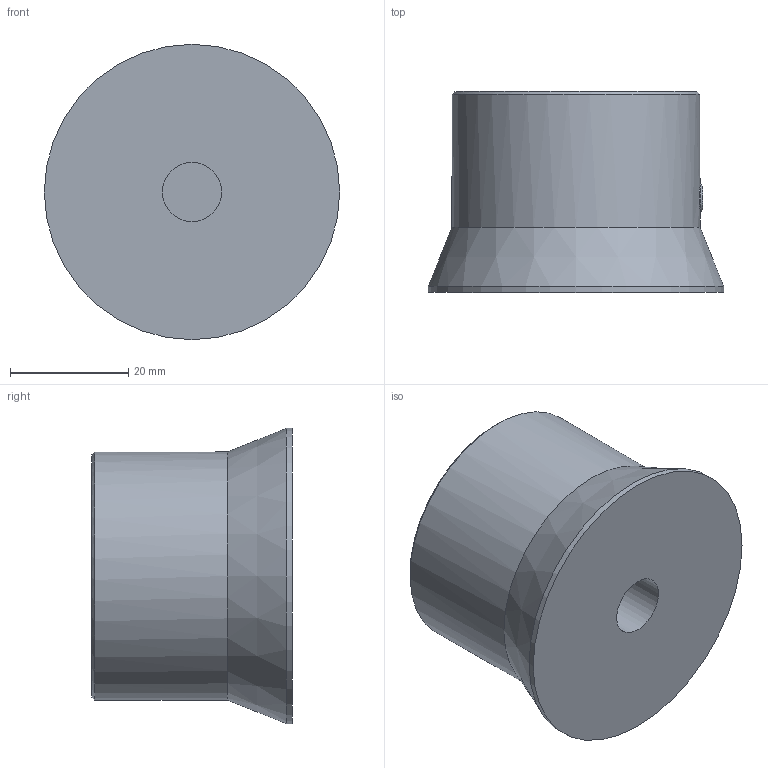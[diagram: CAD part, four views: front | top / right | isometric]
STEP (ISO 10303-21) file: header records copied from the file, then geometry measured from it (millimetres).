
FILE_DESCRIPTION( ( 'STEP AP203' ), '1' );
FILE_NAME( 'C:/Temp/Ganter_Step_05_03_2020/data/1_4/gn_726_2/gn_726_2_a/gn_726_2_a_1/Control knob GN 726.2-42-B10-A-1.stp', '2020-03-05T10:49:59', ( 'License CC BY-ND 4.0' ), ( 'CADENAS' ), ' ', 'PARTsolutions', ' ' );
FILE_SCHEMA( ( 'CONFIG_CONTROL_DESIGN' ) );
Length unit declared in the file: millimetre
Products named in the file (1): _Control knob GN 726.2-42-B10-A-1
Bounding box: 50 x 34 x 50 mm (x, y, z)
Volume: 47692.7 mm3; surface area: 9074.4 mm2
Topology: 1 solids, 1 shells, 138 faces, 395 edges, 262 vertices
Faces by surface type: cylinder 85, plane 39, cone 14
Full cylindrical faces by diameter (mm): 10 x1, 42 x1, 50 x1
Entity records: 4808 total; most frequent: CARTESIAN_POINT 1238, ORIENTED_EDGE 774, DIRECTION 712, EDGE_CURVE 387, AXIS2_PLACEMENT_3D 280, VERTEX_POINT 260, LINE 152, VECTOR 152
